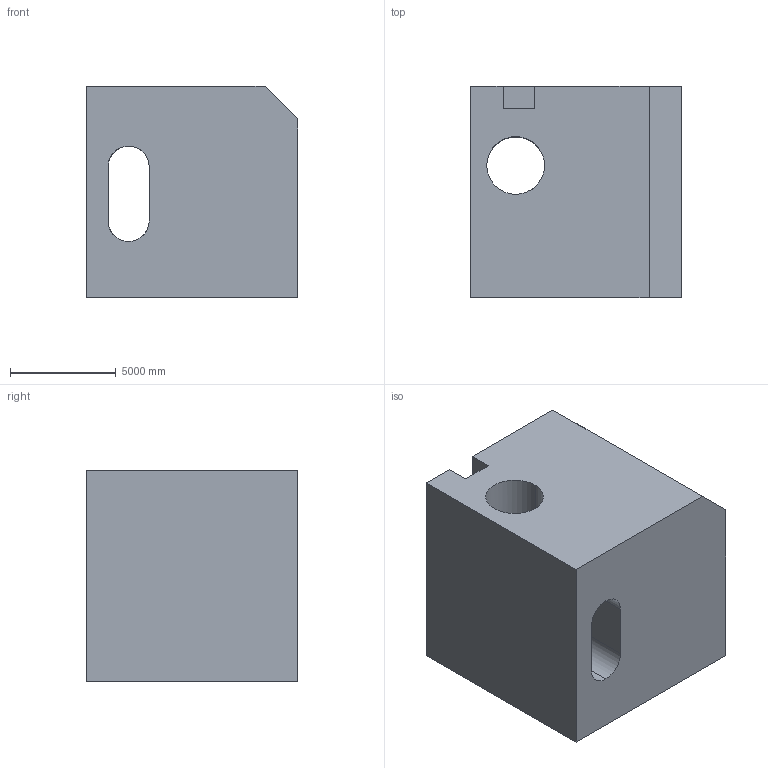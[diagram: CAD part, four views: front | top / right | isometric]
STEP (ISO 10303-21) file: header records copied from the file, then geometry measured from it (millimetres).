
FILE_DESCRIPTION (( 'STEP AP203' ), '1' );
FILE_NAME ('1410.STEP', '2022-08-18T14:18:42', ( 'user' ), ( '' ), 'SwSTEP 2.0', 'SolidWorks 2021', '' );
FILE_SCHEMA (( 'CONFIG_CONTROL_DESIGN' ));
Length unit declared in the file: centimetre
Products named in the file (1): 1410
Bounding box: 10000 x 10000 x 10000 mm (x, y, z)
Volume: 861504309778.4 mm3; surface area: 729991250.5 mm2
Topology: 1 solids, 1 shells, 28 faces, 78 edges, 52 vertices
Faces by surface type: plane 20, cylinder 8
Entity records: 1568 total; most frequent: CARTESIAN_POINT 756, ORIENTED_EDGE 156, DIRECTION 142, EDGE_CURVE 78, VECTOR 60, LINE 60, VERTEX_POINT 52, AXIS2_PLACEMENT_3D 41
